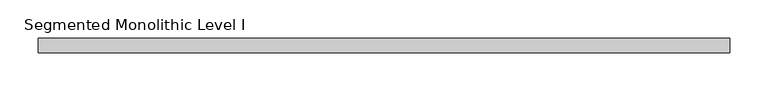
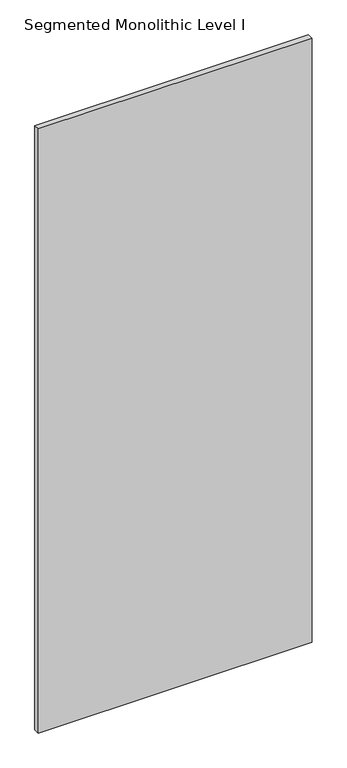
"""IFC4 building model written with IfcOpenShell, lengths in millimetres: proxy geometry, Panel-Fascia-Teknion-Altos-Standard : Segmented Monolithic Level I."""

from ifc_helpers import new_model, si_unit, frame, origin, place, context, project, spatial, polyline, outline, extrude, source, transform, mapped, element, save


def segmented_monolithic_level_i_932c30e3(model_context):
    return source(origin(), model_context, "Body", "SweptSolid", [
        extrude(outline(polyline([(454.025, -9.525), (-454.025, -9.525), (-454.025, 9.525), (454.025, 9.525), (454.025, -9.525)])), frame((0.0, 0.0, 3.175), z_axis=(0.0, 0.0, 1.0), x_axis=(1.0, 0.0, 0.0)), (0.0, 0.0, 1.0), 2117.725),
    ])


if __name__ == "__main__":
    model = new_model("IFC4")
    model_context = context("Model", 3, world=origin())
    ifc_project = project(units=[si_unit("LENGTHUNIT", "METRE", prefix="MILLI")], contexts=[model_context])
    site = spatial("IfcSite", under=ifc_project)
    building = spatial("IfcBuilding", under=site)
    placement = place(None, origin())
    segmented_monolithic_level_i_shape = segmented_monolithic_level_i_932c30e3(model_context)
    element("IfcBuildingElementProxy", 1, Name="Panel-Fascia-Teknion-Altos-Standard : Segmented Monolithic Level I", ObjectType="Panel-Fascia-Teknion-Altos-Standard : Segmented Monolithic Level I", at=placement, inside=building, context=model_context, shape_type="MappedRepresentation", body=[
        mapped(segmented_monolithic_level_i_shape, transform((0.0, 0.0, 0.0), x_axis=(1.0, 0.0, 0.0), y_axis=(0.0, 1.0, 0.0), z_axis=(0.0, 0.0, 1.0))),
    ])
    save(model, "model.ifc")
